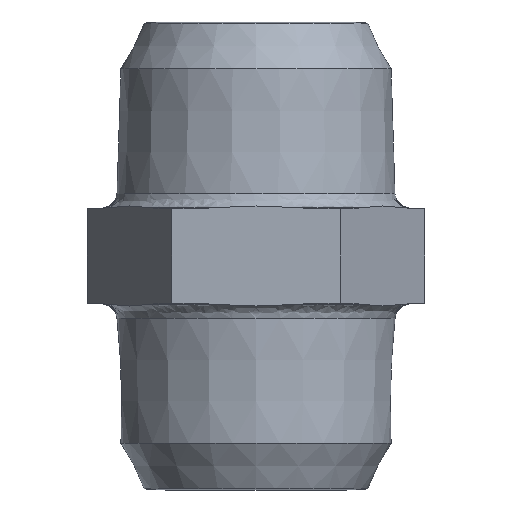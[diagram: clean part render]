
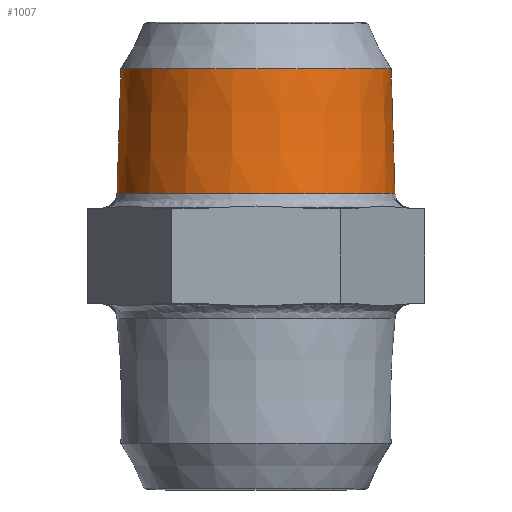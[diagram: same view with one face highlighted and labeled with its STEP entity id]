
A CAD part, left-side view. The second image highlights one B-rep face of the part: STEP entity #1007.
In plain terms, the highlighted conical face has half-angle 1.8 degrees and reference radius 14.3 mm.
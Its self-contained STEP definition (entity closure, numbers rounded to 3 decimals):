
#945=CARTESIAN_POINT('',(13.854,0.,19.195));
#946=VERTEX_POINT('',#945);
#947=CARTESIAN_POINT('',(0.,0.,19.195));
#948=DIRECTION('',(0.0,0.0,1.0));
#949=DIRECTION('',(-1.0,0.0,0.0));
#950=AXIS2_PLACEMENT_3D('',#947,#948,#949);
#951=CIRCLE('',#950,13.854);
#952=EDGE_CURVE('',#946,#946,#951,.T.);
#988=CARTESIAN_POINT('',(0.,0.0,5.0));
#989=DIRECTION('',(0.0,0.0,-1.0));
#990=DIRECTION('',(-1.0,0.0,0.0));
#991=AXIS2_PLACEMENT_3D('',#988,#989,#990);
#992=CONICAL_SURFACE('',#991,14.3,1.8);
#993=CARTESIAN_POINT('',(0.,14.257,6.379));
#994=VERTEX_POINT('',#993);
#995=CARTESIAN_POINT('',(0.,0.0,6.379));
#996=DIRECTION('',(0.0,0.0,-1.0));
#997=DIRECTION('',(0.0,-1.0,0.0));
#998=AXIS2_PLACEMENT_3D('',#995,#996,#997);
#999=CIRCLE('',#998,14.257);
#1000=EDGE_CURVE('',#994,#994,#999,.T.);
#1001=ORIENTED_EDGE('',*,*,#1000,.F.);
#1002=EDGE_LOOP('',(#1001));
#1003=FACE_OUTER_BOUND('',#1002,.T.);
#1004=ORIENTED_EDGE('',*,*,#952,.F.);
#1005=EDGE_LOOP('',(#1004));
#1006=FACE_BOUND('',#1005,.T.);
#1007=ADVANCED_FACE('',(#1003,#1006),#992,.T.);
